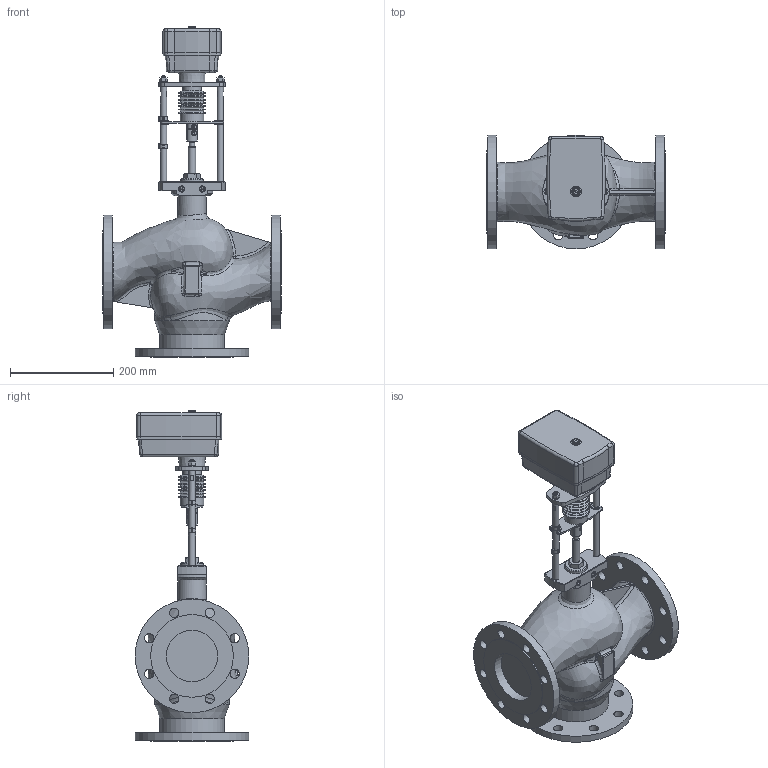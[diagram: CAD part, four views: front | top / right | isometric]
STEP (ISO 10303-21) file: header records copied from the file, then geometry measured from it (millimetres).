
FILE_DESCRIPTION(/* description */ ('Unknown'),/* implementation_level */ '2;1');
FILE_NAME(/* name */ 'TRV-3K-100-160-110',/* time_stamp */ '2023-01-16T14:07:50+03:00',/* author */ ('Unknown'),/* organization */ ('Unknown'),/* preprocessor_version */ 'ST-DEVELOPER v16.7',/* originating_system */ 'DEX',/* authorisation */ $);
FILE_SCHEMA (('AUTOMOTIVE_DESIGN {1 0 10303 214 3 1 1}'));
Length unit declared in the file: millimetre
Products named in the file (3): Êëàïàí DN100-3õ; Äó100-3õ; Ñáîðêà ¹6
Assembly tree (2 placements, depth 2):
  Êëàïàí DN100-3õ
    Äó100-3õ
    Ñáîðêà ¹6
Bounding box: 345 x 220 x 639.4 mm (x, y, z)
Volume: 9113622.3 mm3; surface area: 639372 mm2
Topology: 2 solids, 6 shells, 691 faces, 1742 edges, 1089 vertices
Faces by surface type: plane 309, cylinder 176, bspline 80, cone 75, torus 35, sphere 16
Full cylindrical faces by diameter (mm): 4.134 x2, 5 x5, 5.2 x5, 6.5 x1, 6.647 x2, 8 x6, 10 x4, 12.002 x4, 13.8 x2, 14 x1, 15 x1, 15.6 x1, 18 x24, 20 x1, 35.098 x1, 44 x2, 44.5 x1, 45.4 x1, 55 x1, 100 x3, 125 x1, 160 x3, 220 x3
Entity records: 27556 total; most frequent: CARTESIAN_POINT 8737, ORIENTED_EDGE 3044, DIRECTION 3014, EDGE_CURVE 1522, AXIS2_PLACEMENT_3D 1215, VERTEX_POINT 1016, FACE_BOUND 946, EDGE_LOOP 944
